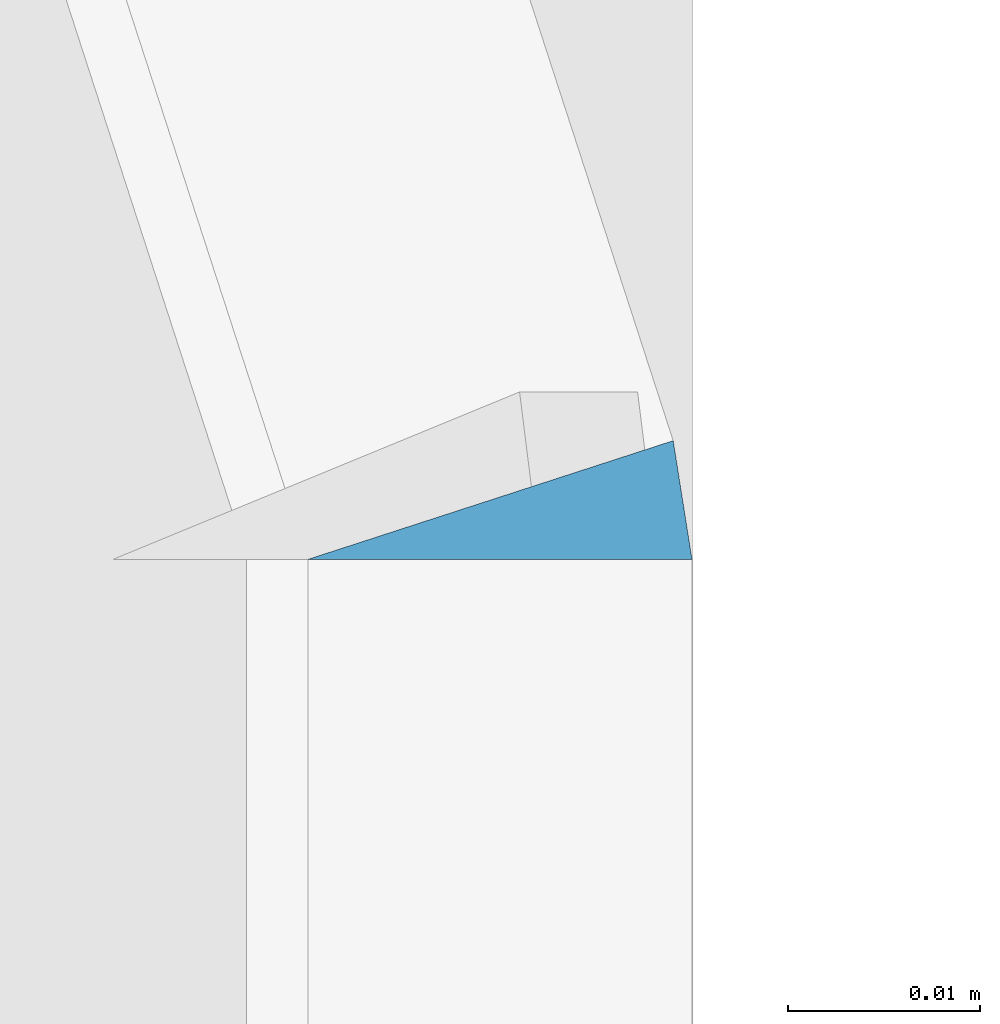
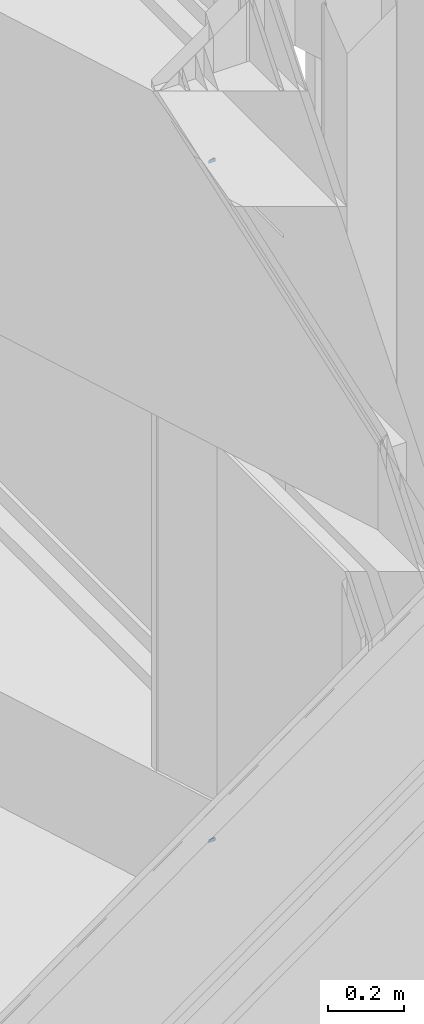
# One storey, part 365 of 583: 2 slabs.
"""IFC2X3 building model written with IfcOpenShell, lengths in metres."""

from ifc_helpers import new_model, entity, si_unit, converted_unit, derived_unit, money_unit, direction, frame, origin_with_axes, place, context, subcontext, project, spatial, faceted_brep, material, type_object, element, save


model = new_model("IFC2X3")

# Units and contexts
model_context = context("Model", 3, precision=1e-05, world=origin_with_axes(), true_north=direction((0.0, 1.0)))
body_context = subcontext(model_context, "Body", "Model", "MODEL_VIEW", scale=1.0)
ifc_project = project(units=[si_unit("LENGTHUNIT", "METRE"), si_unit("AREAUNIT", "SQUARE_METRE"), si_unit("VOLUMEUNIT", "CUBIC_METRE"), si_unit("ABSORBEDDOSEUNIT", "GRAY"), si_unit("AMOUNTOFSUBSTANCEUNIT", "MOLE"), si_unit("DOSEEQUIVALENTUNIT", "SIEVERT"), si_unit("ELECTRICCAPACITANCEUNIT", "FARAD"), si_unit("ELECTRICCHARGEUNIT", "COULOMB"), si_unit("ELECTRICCONDUCTANCEUNIT", "SIEMENS"), si_unit("ELECTRICCURRENTUNIT", "AMPERE"), si_unit("ELECTRICRESISTANCEUNIT", "OHM"), si_unit("ELECTRICVOLTAGEUNIT", "VOLT"), si_unit("ENERGYUNIT", "JOULE"), si_unit("FORCEUNIT", "NEWTON"), si_unit("FREQUENCYUNIT", "HERTZ"), si_unit("ILLUMINANCEUNIT", "LUX"), si_unit("INDUCTANCEUNIT", "HENRY"), si_unit("LUMINOUSFLUXUNIT", "LUMEN"), si_unit("LUMINOUSINTENSITYUNIT", "CANDELA"), si_unit("MAGNETICFLUXDENSITYUNIT", "TESLA"), si_unit("MAGNETICFLUXUNIT", "WEBER"), si_unit("MASSUNIT", "GRAM"), converted_unit("PLANEANGLEUNIT", "degree", entity("IfcReal", 0.0174532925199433), si_unit("PLANEANGLEUNIT", "RADIAN"), dimensions=[0, 0, 0, 0, 0, 0, 0]), si_unit("POWERUNIT", "WATT"), si_unit("PRESSUREUNIT", "PASCAL"), si_unit("RADIOACTIVITYUNIT", "BECQUEREL"), si_unit("SOLIDANGLEUNIT", "STERADIAN"), si_unit("THERMODYNAMICTEMPERATUREUNIT", "KELVIN"), si_unit("TIMEUNIT", "SECOND"), derived_unit("ACCELERATIONUNIT", [(si_unit("LENGTHUNIT", "METRE"), 1), (si_unit("TIMEUNIT", "SECOND"), -2)]), derived_unit("ANGULARVELOCITYUNIT", [(converted_unit("PLANEANGLEUNIT", "degree", entity("IfcReal", 0.0174532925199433), si_unit("PLANEANGLEUNIT", "RADIAN"), dimensions=[0, 0, 0, 0, 0, 0, 0]), 1), (si_unit("TIMEUNIT", "SECOND"), -1)]), derived_unit("CURVATUREUNIT", [(converted_unit("PLANEANGLEUNIT", "degree", entity("IfcReal", 0.0174532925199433), si_unit("PLANEANGLEUNIT", "RADIAN"), dimensions=[0, 0, 0, 0, 0, 0, 0]), 1), (si_unit("LENGTHUNIT", "METRE"), -1)]), derived_unit("DYNAMICVISCOSITYUNIT", [(si_unit("PRESSUREUNIT", "PASCAL"), 1), (si_unit("TIMEUNIT", "SECOND"), 1)]), derived_unit("HEATFLUXDENSITYUNIT", [(si_unit("POWERUNIT", "WATT"), 1), (si_unit("LENGTHUNIT", "METRE"), -2)]), derived_unit("HEATINGVALUEUNIT", [(si_unit("ENERGYUNIT", "JOULE"), 1), (si_unit("MASSUNIT", "GRAM"), -1)]), derived_unit("INTEGERCOUNTRATEUNIT", [(si_unit("TIMEUNIT", "SECOND"), -1)]), derived_unit("IONCONCENTRATIONUNIT", [(si_unit("MASSUNIT", "GRAM"), 1), (si_unit("VOLUMEUNIT", "CUBIC_METRE"), -1)]), derived_unit("ISOTHERMALMOISTURECAPACITYUNIT", [(si_unit("VOLUMEUNIT", "CUBIC_METRE"), 1), (si_unit("MASSUNIT", "GRAM"), -1)]), derived_unit("KINEMATICVISCOSITYUNIT", [(si_unit("AREAUNIT", "SQUARE_METRE"), 1), (si_unit("TIMEUNIT", "SECOND"), -1)]), derived_unit("LINEARFORCEUNIT", [(si_unit("FORCEUNIT", "NEWTON"), 1), (si_unit("LENGTHUNIT", "METRE"), -1)]), derived_unit("LINEARMOMENTUNIT", [(si_unit("FORCEUNIT", "NEWTON"), 1), (si_unit("LENGTHUNIT", "METRE"), -1)]), derived_unit("LINEARSTIFFNESSUNIT", [(si_unit("FORCEUNIT", "NEWTON"), 1), (si_unit("LENGTHUNIT", "METRE"), -1)]), derived_unit("LINEARVELOCITYUNIT", [(si_unit("LENGTHUNIT", "METRE"), 1), (si_unit("TIMEUNIT", "SECOND"), -1)]), derived_unit("LUMINOUSINTENSITYDISTRIBUTIONUNIT", [(si_unit("LUMINOUSINTENSITYUNIT", "CANDELA"), 1), (si_unit("LUMINOUSFLUXUNIT", "LUMEN"), -1)]), derived_unit("MASSDENSITYUNIT", [(si_unit("MASSUNIT", "GRAM"), 1), (si_unit("VOLUMEUNIT", "CUBIC_METRE"), -1)]), derived_unit("MASSFLOWRATEUNIT", [(si_unit("MASSUNIT", "GRAM"), 1), (si_unit("TIMEUNIT", "SECOND"), -1)]), derived_unit("MASSPERLENGTHUNIT", [(si_unit("MASSUNIT", "GRAM"), 1), (si_unit("LENGTHUNIT", "METRE"), -1)]), derived_unit("MODULUSOFELASTICITYUNIT", [(si_unit("FORCEUNIT", "NEWTON"), 1), (si_unit("AREAUNIT", "SQUARE_METRE"), -1)]), derived_unit("MODULUSOFLINEARSUBGRADEREACTIONUNIT", [(si_unit("FORCEUNIT", "NEWTON"), 1), (si_unit("LENGTHUNIT", "METRE"), -2)]), derived_unit("MODULUSOFROTATIONALSUBGRADEREACTIONUNIT", [(si_unit("FORCEUNIT", "NEWTON"), 1), (si_unit("LENGTHUNIT", "METRE"), 1)]), derived_unit("MODULUSOFSUBGRADEREACTIONUNIT", [(si_unit("FORCEUNIT", "NEWTON"), 1), (si_unit("VOLUMEUNIT", "CUBIC_METRE"), -1)]), derived_unit("MOISTUREDIFFUSIVITYUNIT", [(si_unit("VOLUMEUNIT", "CUBIC_METRE"), 1), (si_unit("TIMEUNIT", "SECOND"), -1)]), derived_unit("MOLECULARWEIGHTUNIT", [(si_unit("MASSUNIT", "GRAM"), 1), (si_unit("AMOUNTOFSUBSTANCEUNIT", "MOLE"), -1)]), derived_unit("PLANARFORCEUNIT", [(si_unit("FORCEUNIT", "NEWTON"), 1), (si_unit("LENGTHUNIT", "METRE"), -2)]), derived_unit("ROTATIONALFREQUENCYUNIT", [(si_unit("TIMEUNIT", "SECOND"), -1)]), derived_unit("ROTATIONALMASSUNIT", [(si_unit("MASSUNIT", "GRAM"), 1), (si_unit("LENGTHUNIT", "METRE"), 2)]), derived_unit("ROTATIONALSTIFFNESSUNIT", [(si_unit("FORCEUNIT", "NEWTON"), 1), (si_unit("LENGTHUNIT", "METRE"), 1), (converted_unit("PLANEANGLEUNIT", "degree", entity("IfcReal", 0.0174532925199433), si_unit("PLANEANGLEUNIT", "RADIAN"), dimensions=[0, 0, 0, 0, 0, 0, 0]), -1)]), derived_unit("SECTIONAREAINTEGRALUNIT", [(si_unit("LENGTHUNIT", "METRE"), 5)]), derived_unit("SECTIONMODULUSUNIT", [(si_unit("LENGTHUNIT", "METRE"), 3)]), derived_unit("SHEARMODULUSUNIT", [(si_unit("FORCEUNIT", "NEWTON"), 1), (si_unit("AREAUNIT", "SQUARE_METRE"), -1)]), derived_unit("SOUNDPOWERUNIT", [(si_unit("ENERGYUNIT", "JOULE"), 1), (si_unit("TIMEUNIT", "SECOND"), -1)]), derived_unit("SPECIFICHEATCAPACITYUNIT", [(si_unit("FORCEUNIT", "NEWTON"), 1), (si_unit("MASSUNIT", "GRAM"), -1), (si_unit("THERMODYNAMICTEMPERATUREUNIT", "KELVIN"), -1)]), derived_unit("TEMPERATUREGRADIENTUNIT", [(si_unit("THERMODYNAMICTEMPERATUREUNIT", "KELVIN"), 1), (si_unit("LENGTHUNIT", "METRE"), -1)]), derived_unit("THERMALADMITTANCEUNIT", [(si_unit("POWERUNIT", "WATT"), 1), (si_unit("AREAUNIT", "SQUARE_METRE"), -1), (si_unit("THERMODYNAMICTEMPERATUREUNIT", "KELVIN"), -1)]), derived_unit("THERMALCONDUCTANCEUNIT", [(si_unit("POWERUNIT", "WATT"), 1), (si_unit("LENGTHUNIT", "METRE"), -1), (si_unit("THERMODYNAMICTEMPERATUREUNIT", "KELVIN"), -1)]), derived_unit("THERMALEXPANSIONCOEFFICIENTUNIT", [(si_unit("THERMODYNAMICTEMPERATUREUNIT", "KELVIN"), -1)]), derived_unit("THERMALRESISTANCEUNIT", [(si_unit("AREAUNIT", "SQUARE_METRE"), 1), (si_unit("POWERUNIT", "WATT"), -1)]), derived_unit("THERMALTRANSMITTANCEUNIT", [(si_unit("POWERUNIT", "WATT"), 1), (si_unit("AREAUNIT", "SQUARE_METRE"), -1), (si_unit("THERMODYNAMICTEMPERATUREUNIT", "KELVIN"), -1)]), derived_unit("TORQUEUNIT", [(si_unit("FORCEUNIT", "NEWTON"), 1), (si_unit("LENGTHUNIT", "METRE"), 1)]), derived_unit("VAPORPERMEABILITYUNIT", [(si_unit("MASSUNIT", "GRAM"), 1), (si_unit("TIMEUNIT", "SECOND"), -1)]), derived_unit("VOLUMETRICFLOWRATEUNIT", [(si_unit("VOLUMEUNIT", "CUBIC_METRE"), 1), (si_unit("TIMEUNIT", "SECOND"), -1)]), derived_unit("WARPINGCONSTANTUNIT", [(si_unit("LENGTHUNIT", "METRE"), 6)]), derived_unit("WARPINGMOMENTUNIT", [(si_unit("FORCEUNIT", "NEWTON"), 1), (si_unit("LENGTHUNIT", "METRE"), 2)]), money_unit("GBP")], contexts=[model_context])

# Site, building, storey
site_placement = place(None, origin_with_axes())
site = spatial("IfcSite", under=ifc_project, at=site_placement, Name="Site", CompositionType="ELEMENT")
building_placement = place(site_placement, origin_with_axes())
building = spatial("IfcBuilding", under=site, at=building_placement, Name="Building01", CompositionType="ELEMENT")
storey_placement = place(building_placement, frame((0.0, 0.0, 20.78), z_axis=(0.0, 0.0, 1.0), x_axis=(1.0, 0.0, 0.0)))
storey = spatial("IfcBuildingStorey", under=building, at=storey_placement, Name="RL", CompositionType="ELEMENT", Elevation=20.78)

# Slabs
ifc_material = material(Name="A_BSUK_Roofs")
slab_type = type_object("IfcSlabType", Name="A-FloorsSlabs A_BSUK_Slabs", PredefinedType="FLOOR")
for number, where, z_axis, x_axis, name in (
    (1, (14.399021, 16.280608, -7.284976), (0.0, 1.0, 0.0), (0.0, 0.0, -1.0), "A-FloorsSlabs A_BSUK_Slabs"),
    (2, (14.399021, 16.280608, -5.094976), (0.0, 1.0, 0.0), (0.0, 0.0, -1.0), "A-FloorsSlabs A_BSUK_Slabs"),
):
    element("IfcSlab", number, at=place(storey_placement, frame(where, z_axis=z_axis, x_axis=x_axis)), inside=storey, type_object=slab_type, material=ifc_material, Name=name, ObjectType="A-FloorsSlabs A_BSUK_Slabs", context=body_context, shape_type="Brep", body=[
        faceted_brep([(0.0, 0.0, 0.0), (-0.01, 0.0, 0.0), (-0.01, -0.000979, -0.00618), (0.0, -0.000979, -0.00618), (-0.01, 0.019021, -0.00618), (0.0, 0.019021, -0.00618)], [[[0, 1, 2, 3]], [[3, 2, 4, 5]], [[5, 4, 1, 0]], [[1, 4, 2]], [[3, 5, 0]]]),
    ])

save(model, "model.ifc")
